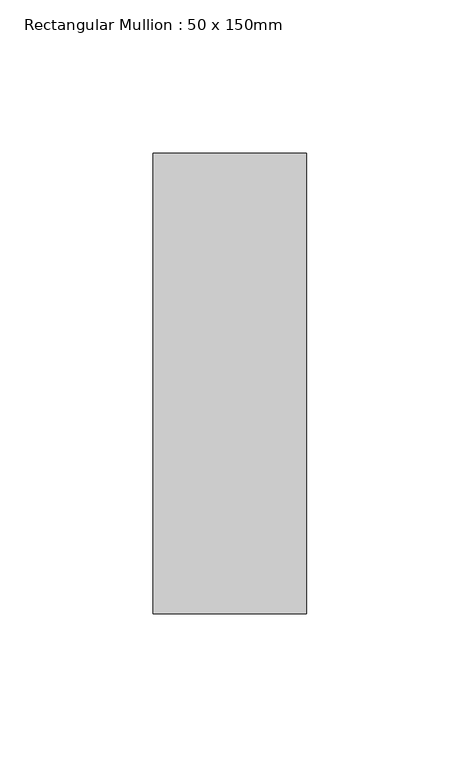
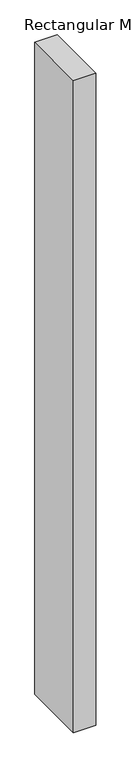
"""IFC4 building model written with IfcOpenShell, lengths in millimetres: member geometry, Rectangular Mullion : 50 x 150mm."""

from ifc_helpers import new_model, si_unit, frame, origin, place, context, project, spatial, polyline, outline, extrude, source, transform, mapped, element, save


def rectangular_mullion_50_x_150mm_83076b16(model_context):
    return source(origin(), model_context, "Body", "SweptSolid", [
        extrude(outline(polyline([(0.0, 0.0), (-0.285412, -50.0), (-1547.8226601, -50.0), (-1548.030431, 0.0), (0.0, 0.0)])), frame((0.0, -75.0, 0.0), z_axis=(0.0, 1.0, 0.0), x_axis=(0.0, 0.0, 1.0)), (0.0, 0.0, 1.0), 150.0),
    ])


if __name__ == "__main__":
    model = new_model("IFC4")
    model_context = context("Model", 3, world=origin())
    ifc_project = project(units=[si_unit("LENGTHUNIT", "METRE", prefix="MILLI")], contexts=[model_context])
    site = spatial("IfcSite", under=ifc_project)
    building = spatial("IfcBuilding", under=site)
    placement = place(None, origin())
    rectangular_mullion_50_x_150mm_shape = rectangular_mullion_50_x_150mm_83076b16(model_context)
    element("IfcMember", 1, ObjectType="Rectangular Mullion : 50 x 150mm", at=placement, inside=building, context=model_context, shape_type="MappedRepresentation", body=[
        mapped(rectangular_mullion_50_x_150mm_shape, transform((0.0, 0.0, 0.0), x_axis=(1.0, 0.0, 0.0), y_axis=(0.0, 1.0, 0.0), z_axis=(0.0, 0.0, 1.0))),
    ])
    save(model, "model.ifc")
